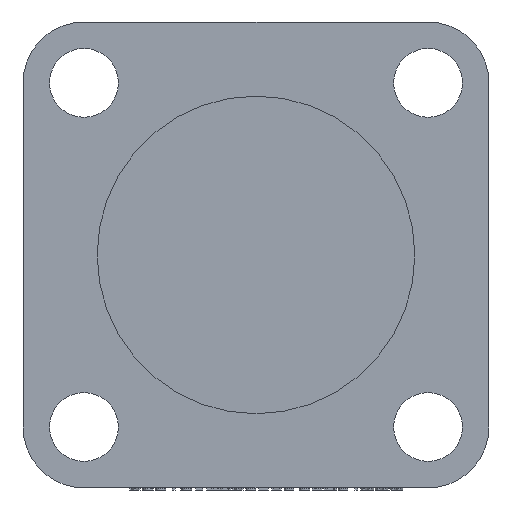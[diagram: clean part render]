
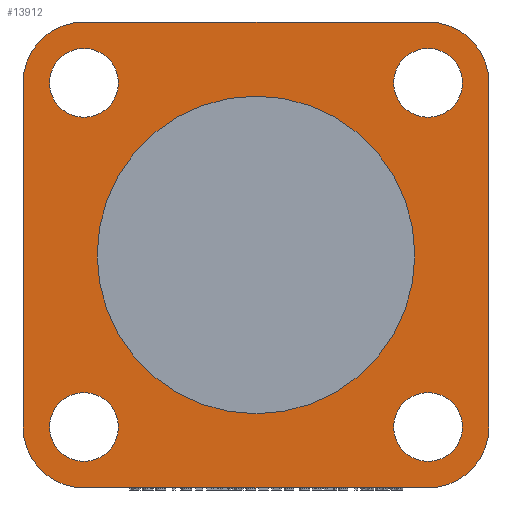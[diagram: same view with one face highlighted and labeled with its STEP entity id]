
A CAD part, left-side view. The second image highlights one B-rep face of the part: STEP entity #13912.
In plain terms, the highlighted planar face has unit normal (-1, 0, 0).
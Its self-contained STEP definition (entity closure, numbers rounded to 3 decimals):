
#12617=CARTESIAN_POINT('Line Origine',(-9.,0.,-22.)) ;
#12621=CARTESIAN_POINT('Vertex',(-9.,-16.25,-22.)) ;
#12623=CARTESIAN_POINT('Vertex',(-9.,16.25,-22.)) ;
#13291=CARTESIAN_POINT('Axis2P3D Location',(-9.,16.25,16.25)) ;
#13295=CARTESIAN_POINT('Vertex',(-9.,22.,16.25)) ;
#13297=CARTESIAN_POINT('Vertex',(-9.,16.25,22.)) ;
#13322=CARTESIAN_POINT('Axis2P3D Location',(-9.,-16.25,16.25)) ;
#13326=CARTESIAN_POINT('Vertex',(-9.,-16.25,22.)) ;
#13328=CARTESIAN_POINT('Vertex',(-9.,-22.,16.25)) ;
#13360=CARTESIAN_POINT('Line Origine',(-9.,-22.,0.)) ;
#13364=CARTESIAN_POINT('Vertex',(-9.,-22.,-16.25)) ;
#13418=CARTESIAN_POINT('Axis2P3D Location',(-9.,-16.25,-16.25)) ;
#13435=CARTESIAN_POINT('Line Origine',(-9.,0.,22.)) ;
#13456=CARTESIAN_POINT('Vertex',(-9.,-15.,0.)) ;
#13461=CARTESIAN_POINT('Axis2P3D Location',(-9.,0.,0.)) ;
#13465=CARTESIAN_POINT('Vertex',(-9.,15.,0.)) ;
#13487=CARTESIAN_POINT('Axis2P3D Location',(-9.,0.,0.)) ;
#13647=CARTESIAN_POINT('Vertex',(-9.,-13.,-16.25)) ;
#13654=CARTESIAN_POINT('Vertex',(-9.,-19.5,-16.25)) ;
#13657=CARTESIAN_POINT('Axis2P3D Location',(-9.,-16.25,-16.25)) ;
#13669=CARTESIAN_POINT('Axis2P3D Location',(-9.,-16.25,-16.25)) ;
#13690=CARTESIAN_POINT('Vertex',(-9.,19.5,-16.25)) ;
#13697=CARTESIAN_POINT('Vertex',(-9.,13.,-16.25)) ;
#13700=CARTESIAN_POINT('Axis2P3D Location',(-9.,16.25,-16.25)) ;
#13712=CARTESIAN_POINT('Axis2P3D Location',(-9.,16.25,-16.25)) ;
#13733=CARTESIAN_POINT('Vertex',(-9.,-13.,16.25)) ;
#13740=CARTESIAN_POINT('Vertex',(-9.,-19.5,16.25)) ;
#13743=CARTESIAN_POINT('Axis2P3D Location',(-9.,-16.25,16.25)) ;
#13755=CARTESIAN_POINT('Axis2P3D Location',(-9.,-16.25,16.25)) ;
#13776=CARTESIAN_POINT('Vertex',(-9.,19.5,16.25)) ;
#13783=CARTESIAN_POINT('Vertex',(-9.,13.,16.25)) ;
#13786=CARTESIAN_POINT('Axis2P3D Location',(-9.,16.25,16.25)) ;
#13798=CARTESIAN_POINT('Axis2P3D Location',(-9.,16.25,16.25)) ;
#13853=CARTESIAN_POINT('Axis2P3D Location',(-9.,16.25,-16.25)) ;
#13857=CARTESIAN_POINT('Vertex',(-9.,22.,-16.25)) ;
#13872=CARTESIAN_POINT('Axis2P3D Location',(-9.,0.,0.)) ;
#13877=CARTESIAN_POINT('Line Origine',(-9.,22.,0.)) ;
#12618=DIRECTION('Vector Direction',(0.,-1.,0.)) ;
#13292=DIRECTION('Axis2P3D Direction',(1.,0.,0.)) ;
#13323=DIRECTION('Axis2P3D Direction',(1.,0.,0.)) ;
#13361=DIRECTION('Vector Direction',(0.,0.,-1.)) ;
#13419=DIRECTION('Axis2P3D Direction',(1.,0.,0.)) ;
#13436=DIRECTION('Vector Direction',(0.,1.,0.)) ;
#13462=DIRECTION('Axis2P3D Direction',(-1.,-0.,0.)) ;
#13488=DIRECTION('Axis2P3D Direction',(-1.,-0.,0.)) ;
#13658=DIRECTION('Axis2P3D Direction',(1.,0.,0.)) ;
#13670=DIRECTION('Axis2P3D Direction',(1.,0.,0.)) ;
#13701=DIRECTION('Axis2P3D Direction',(1.,0.,0.)) ;
#13713=DIRECTION('Axis2P3D Direction',(1.,0.,0.)) ;
#13744=DIRECTION('Axis2P3D Direction',(1.,0.,0.)) ;
#13756=DIRECTION('Axis2P3D Direction',(1.,0.,0.)) ;
#13787=DIRECTION('Axis2P3D Direction',(1.,0.,0.)) ;
#13799=DIRECTION('Axis2P3D Direction',(1.,0.,0.)) ;
#13854=DIRECTION('Axis2P3D Direction',(1.,0.,0.)) ;
#13873=DIRECTION('Axis2P3D Direction',(1.,0.,0.)) ;
#13874=DIRECTION('Axis2P3D XDirection',(0.,1.,0.)) ;
#13878=DIRECTION('Vector Direction',(0.,0.,1.)) ;
#13293=AXIS2_PLACEMENT_3D('Circle Axis2P3D',#13291,#13292,$) ;
#13324=AXIS2_PLACEMENT_3D('Circle Axis2P3D',#13322,#13323,$) ;
#13420=AXIS2_PLACEMENT_3D('Circle Axis2P3D',#13418,#13419,$) ;
#13463=AXIS2_PLACEMENT_3D('Circle Axis2P3D',#13461,#13462,$) ;
#13489=AXIS2_PLACEMENT_3D('Circle Axis2P3D',#13487,#13488,$) ;
#13659=AXIS2_PLACEMENT_3D('Circle Axis2P3D',#13657,#13658,$) ;
#13671=AXIS2_PLACEMENT_3D('Circle Axis2P3D',#13669,#13670,$) ;
#13702=AXIS2_PLACEMENT_3D('Circle Axis2P3D',#13700,#13701,$) ;
#13714=AXIS2_PLACEMENT_3D('Circle Axis2P3D',#13712,#13713,$) ;
#13745=AXIS2_PLACEMENT_3D('Circle Axis2P3D',#13743,#13744,$) ;
#13757=AXIS2_PLACEMENT_3D('Circle Axis2P3D',#13755,#13756,$) ;
#13788=AXIS2_PLACEMENT_3D('Circle Axis2P3D',#13786,#13787,$) ;
#13800=AXIS2_PLACEMENT_3D('Circle Axis2P3D',#13798,#13799,$) ;
#13855=AXIS2_PLACEMENT_3D('Circle Axis2P3D',#13853,#13854,$) ;
#13875=AXIS2_PLACEMENT_3D('Plane Axis2P3D',#13872,#13873,#13874) ;
#13883=ORIENTED_EDGE('',*,*,#13439,.F.) ;
#13884=ORIENTED_EDGE('',*,*,#13299,.F.) ;
#13885=ORIENTED_EDGE('',*,*,#13881,.F.) ;
#13886=ORIENTED_EDGE('',*,*,#13859,.F.) ;
#13887=ORIENTED_EDGE('',*,*,#12625,.F.) ;
#13888=ORIENTED_EDGE('',*,*,#13422,.F.) ;
#13889=ORIENTED_EDGE('',*,*,#13366,.F.) ;
#13890=ORIENTED_EDGE('',*,*,#13330,.F.) ;
#13893=ORIENTED_EDGE('',*,*,#13491,.F.) ;
#13894=ORIENTED_EDGE('',*,*,#13467,.F.) ;
#13897=ORIENTED_EDGE('',*,*,#13790,.T.) ;
#13898=ORIENTED_EDGE('',*,*,#13802,.T.) ;
#13901=ORIENTED_EDGE('',*,*,#13747,.T.) ;
#13902=ORIENTED_EDGE('',*,*,#13759,.T.) ;
#13905=ORIENTED_EDGE('',*,*,#13704,.T.) ;
#13906=ORIENTED_EDGE('',*,*,#13716,.T.) ;
#13909=ORIENTED_EDGE('',*,*,#13661,.T.) ;
#13910=ORIENTED_EDGE('',*,*,#13673,.T.) ;
#13895=FACE_BOUND('',#13892,.T.) ;
#13899=FACE_BOUND('',#13896,.T.) ;
#13903=FACE_BOUND('',#13900,.T.) ;
#13907=FACE_BOUND('',#13904,.T.) ;
#13911=FACE_BOUND('',#13908,.T.) ;
#12619=VECTOR('Line Direction',#12618,1.) ;
#13362=VECTOR('Line Direction',#13361,1.) ;
#13437=VECTOR('Line Direction',#13436,1.) ;
#13879=VECTOR('Line Direction',#13878,1.) ;
#13912=ADVANCED_FACE('PartBody',(#13891,#13895,#13899,#13903,#13907,#13911),#13876,.F.) ;
#13294=CIRCLE('generated circle',#13293,5.75) ;
#13325=CIRCLE('generated circle',#13324,5.75) ;
#13421=CIRCLE('generated circle',#13420,5.75) ;
#13464=CIRCLE('generated circle',#13463,15.) ;
#13490=CIRCLE('generated circle',#13489,15.) ;
#13660=CIRCLE('generated circle',#13659,3.25) ;
#13672=CIRCLE('generated circle',#13671,3.25) ;
#13703=CIRCLE('generated circle',#13702,3.25) ;
#13715=CIRCLE('generated circle',#13714,3.25) ;
#13746=CIRCLE('generated circle',#13745,3.25) ;
#13758=CIRCLE('generated circle',#13757,3.25) ;
#13789=CIRCLE('generated circle',#13788,3.25) ;
#13801=CIRCLE('generated circle',#13800,3.25) ;
#13856=CIRCLE('generated circle',#13855,5.75) ;
#12625=EDGE_CURVE('',#12622,#12624,#12620,.F.) ;
#13299=EDGE_CURVE('',#13296,#13298,#13294,.T.) ;
#13330=EDGE_CURVE('',#13327,#13329,#13325,.T.) ;
#13366=EDGE_CURVE('',#13329,#13365,#13363,.T.) ;
#13422=EDGE_CURVE('',#13365,#12622,#13421,.T.) ;
#13439=EDGE_CURVE('',#13298,#13327,#13438,.F.) ;
#13467=EDGE_CURVE('',#13457,#13466,#13464,.T.) ;
#13491=EDGE_CURVE('',#13466,#13457,#13490,.T.) ;
#13661=EDGE_CURVE('',#13648,#13655,#13660,.T.) ;
#13673=EDGE_CURVE('',#13655,#13648,#13672,.T.) ;
#13704=EDGE_CURVE('',#13691,#13698,#13703,.T.) ;
#13716=EDGE_CURVE('',#13698,#13691,#13715,.T.) ;
#13747=EDGE_CURVE('',#13734,#13741,#13746,.T.) ;
#13759=EDGE_CURVE('',#13741,#13734,#13758,.T.) ;
#13790=EDGE_CURVE('',#13777,#13784,#13789,.T.) ;
#13802=EDGE_CURVE('',#13784,#13777,#13801,.T.) ;
#13859=EDGE_CURVE('',#12624,#13858,#13856,.T.) ;
#13881=EDGE_CURVE('',#13858,#13296,#13880,.T.) ;
#13882=EDGE_LOOP('',(#13883,#13884,#13885,#13886,#13887,#13888,#13889,#13890)) ;
#13892=EDGE_LOOP('',(#13893,#13894)) ;
#13896=EDGE_LOOP('',(#13897,#13898)) ;
#13900=EDGE_LOOP('',(#13901,#13902)) ;
#13904=EDGE_LOOP('',(#13905,#13906)) ;
#13908=EDGE_LOOP('',(#13909,#13910)) ;
#13891=FACE_OUTER_BOUND('',#13882,.T.) ;
#12620=LINE('Line',#12617,#12619) ;
#13363=LINE('Line',#13360,#13362) ;
#13438=LINE('Line',#13435,#13437) ;
#13880=LINE('Line',#13877,#13879) ;
#13876=PLANE('',#13875) ;
#12622=VERTEX_POINT('',#12621) ;
#12624=VERTEX_POINT('',#12623) ;
#13296=VERTEX_POINT('',#13295) ;
#13298=VERTEX_POINT('',#13297) ;
#13327=VERTEX_POINT('',#13326) ;
#13329=VERTEX_POINT('',#13328) ;
#13365=VERTEX_POINT('',#13364) ;
#13457=VERTEX_POINT('',#13456) ;
#13466=VERTEX_POINT('',#13465) ;
#13648=VERTEX_POINT('',#13647) ;
#13655=VERTEX_POINT('',#13654) ;
#13691=VERTEX_POINT('',#13690) ;
#13698=VERTEX_POINT('',#13697) ;
#13734=VERTEX_POINT('',#13733) ;
#13741=VERTEX_POINT('',#13740) ;
#13777=VERTEX_POINT('',#13776) ;
#13784=VERTEX_POINT('',#13783) ;
#13858=VERTEX_POINT('',#13857) ;
